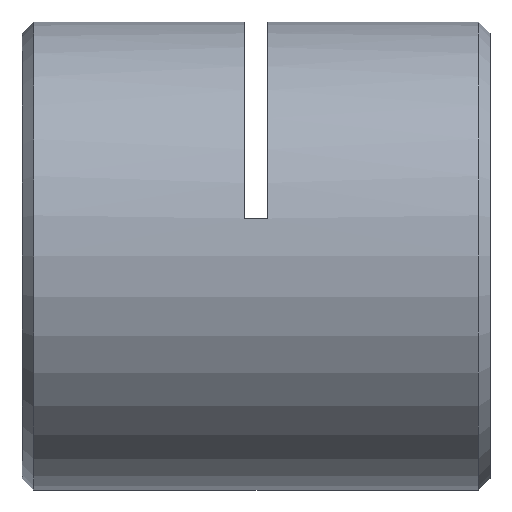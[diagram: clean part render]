
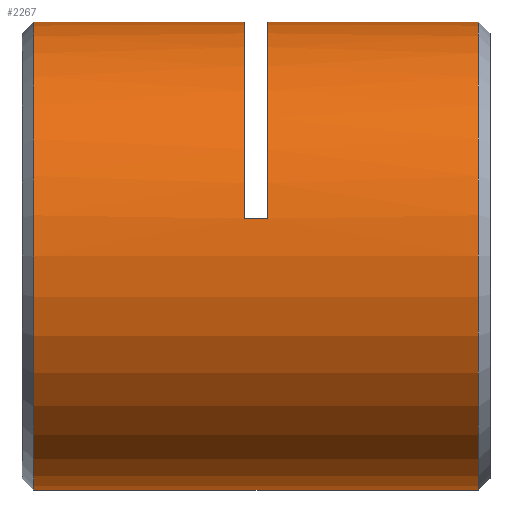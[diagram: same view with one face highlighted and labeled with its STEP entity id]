
A CAD part, left-side view. The second image highlights one B-rep face of the part: STEP entity #2267.
In plain terms, the highlighted cylindrical face has radius 8 mm (diameter 16 mm), a partial arc.
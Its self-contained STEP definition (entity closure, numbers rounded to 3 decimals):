
#59 = FACE_OUTER_BOUND ( 'NONE', #627, .T. ) ;
#95 = DIRECTION ( 'NONE',  ( 0., 0., -1. ) ) ;
#166 = VECTOR ( 'NONE', #2505, 1000. ) ;
#205 = CARTESIAN_POINT ( 'NONE',  ( 0., 7.85, 8. ) ) ;
#223 = CARTESIAN_POINT ( 'NONE',  ( 0., 0.65, 8. ) ) ;
#374 = ORIENTED_EDGE ( 'NONE', *, *, #2180, .T. ) ;
#426 = CARTESIAN_POINT ( 'NONE',  ( 0., 8.65, 8. ) ) ;
#627 = EDGE_LOOP ( 'NONE', ( #2168, #3298, #2172, #1470, #1805, #3516, #1198, #374 ) ) ;
#679 = CYLINDRICAL_SURFACE ( 'NONE', #3133, 8. ) ;
#743 = CARTESIAN_POINT ( 'NONE',  ( 0., 0.25, -8. ) ) ;
#821 = AXIS2_PLACEMENT_3D ( 'NONE', #869, #2000, #862 ) ;
#830 = DIRECTION ( 'NONE',  ( 0., 1., 0. ) ) ;
#862 = DIRECTION ( 'NONE',  ( 0., 0., 1. ) ) ;
#869 = CARTESIAN_POINT ( 'NONE',  ( 0., 8.65, 0. ) ) ;
#926 = CIRCLE ( 'NONE', #821, 8. ) ;
#953 = CARTESIAN_POINT ( 'NONE',  ( 0., 15.85, -8. ) ) ;
#956 = CARTESIAN_POINT ( 'NONE',  ( 0., 15.85, 0. ) ) ;
#1028 = DIRECTION ( 'NONE',  ( 0., 1., 0. ) ) ;
#1127 = EDGE_CURVE ( 'NONE', #2602, #2600, #926, .T. ) ;
#1132 = DIRECTION ( 'NONE',  ( 0., 1., 0. ) ) ;
#1173 = EDGE_CURVE ( 'NONE', #1919, #1887, #2562, .T. ) ;
#1198 = ORIENTED_EDGE ( 'NONE', *, *, #2910, .T. ) ;
#1223 = VERTEX_POINT ( 'NONE', #2646 ) ;
#1338 = DIRECTION ( 'NONE',  ( 0., 1., 0. ) ) ;
#1421 = CARTESIAN_POINT ( 'NONE',  ( 0., 0.25, 8. ) ) ;
#1434 = LINE ( 'NONE', #743, #166 ) ;
#1437 = AXIS2_PLACEMENT_3D ( 'NONE', #956, #3583, #95 ) ;
#1470 = ORIENTED_EDGE ( 'NONE', *, *, #2353, .F. ) ;
#1571 = DIRECTION ( 'NONE',  ( 0., 0., 1. ) ) ;
#1586 = VERTEX_POINT ( 'NONE', #953 ) ;
#1805 = ORIENTED_EDGE ( 'NONE', *, *, #2836, .T. ) ;
#1887 = VERTEX_POINT ( 'NONE', #223 ) ;
#1919 = VERTEX_POINT ( 'NONE', #2317 ) ;
#2000 = DIRECTION ( 'NONE',  ( 0., 1., 0. ) ) ;
#2017 = CARTESIAN_POINT ( 'NONE',  ( 0., 0.65, 0. ) ) ;
#2168 = ORIENTED_EDGE ( 'NONE', *, *, #2370, .F. ) ;
#2172 = ORIENTED_EDGE ( 'NONE', *, *, #2708, .T. ) ;
#2180 = EDGE_CURVE ( 'NONE', #3532, #1586, #2472, .T. ) ;
#2266 = CARTESIAN_POINT ( 'NONE',  ( 0., 0.25, 8. ) ) ;
#2267 = ADVANCED_FACE ( 'NONE', ( #59 ), #679, .T. ) ;
#2317 = CARTESIAN_POINT ( 'NONE',  ( 0., 0.65, -8. ) ) ;
#2353 = EDGE_CURVE ( 'NONE', #1223, #2773, #2795, .T. ) ;
#2370 = EDGE_CURVE ( 'NONE', #1919, #1586, #1434, .T. ) ;
#2472 = CIRCLE ( 'NONE', #1437, 8. ) ;
#2480 = CARTESIAN_POINT ( 'NONE',  ( 0., 0.25, 0. ) ) ;
#2505 = DIRECTION ( 'NONE',  ( 0., 1., 0. ) ) ;
#2562 = CIRCLE ( 'NONE', #3621, 8. ) ;
#2576 = VECTOR ( 'NONE', #1338, 1000. ) ;
#2600 = VERTEX_POINT ( 'NONE', #426 ) ;
#2602 = VERTEX_POINT ( 'NONE', #2755 ) ;
#2632 = CARTESIAN_POINT ( 'NONE',  ( -7.897, 8.25, 1.28 ) ) ;
#2646 = CARTESIAN_POINT ( 'NONE',  ( -7.897, 7.85, 1.28 ) ) ;
#2657 = LINE ( 'NONE', #2632, #2840 ) ;
#2693 = VECTOR ( 'NONE', #2891, 1000. ) ;
#2708 = EDGE_CURVE ( 'NONE', #1887, #2773, #2889, .T. ) ;
#2730 = DIRECTION ( 'NONE',  ( 0., 1., 0. ) ) ;
#2755 = CARTESIAN_POINT ( 'NONE',  ( -7.897, 8.65, 1.28 ) ) ;
#2766 = CARTESIAN_POINT ( 'NONE',  ( 0., 7.85, 0. ) ) ;
#2773 = VERTEX_POINT ( 'NONE', #205 ) ;
#2795 = CIRCLE ( 'NONE', #3269, 8. ) ;
#2836 = EDGE_CURVE ( 'NONE', #1223, #2602, #2657, .T. ) ;
#2840 = VECTOR ( 'NONE', #1132, 1000. ) ;
#2889 = LINE ( 'NONE', #2266, #2576 ) ;
#2891 = DIRECTION ( 'NONE',  ( 0., 1., 0. ) ) ;
#2910 = EDGE_CURVE ( 'NONE', #2600, #3532, #3776, .T. ) ;
#3078 = DIRECTION ( 'NONE',  ( 0., 0., 1. ) ) ;
#3133 = AXIS2_PLACEMENT_3D ( 'NONE', #2480, #2730, #1571 ) ;
#3269 = AXIS2_PLACEMENT_3D ( 'NONE', #2766, #1028, #3078 ) ;
#3298 = ORIENTED_EDGE ( 'NONE', *, *, #1173, .T. ) ;
#3516 = ORIENTED_EDGE ( 'NONE', *, *, #1127, .T. ) ;
#3532 = VERTEX_POINT ( 'NONE', #3701 ) ;
#3583 = DIRECTION ( 'NONE',  ( 0., -1., 0. ) ) ;
#3621 = AXIS2_PLACEMENT_3D ( 'NONE', #2017, #830, #3796 ) ;
#3701 = CARTESIAN_POINT ( 'NONE',  ( 0., 15.85, 8. ) ) ;
#3776 = LINE ( 'NONE', #1421, #2693 ) ;
#3796 = DIRECTION ( 'NONE',  ( 0., 0., 1. ) ) ;
